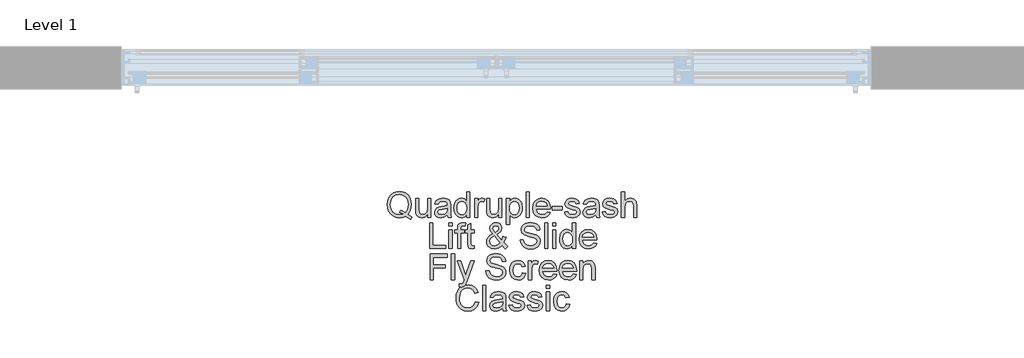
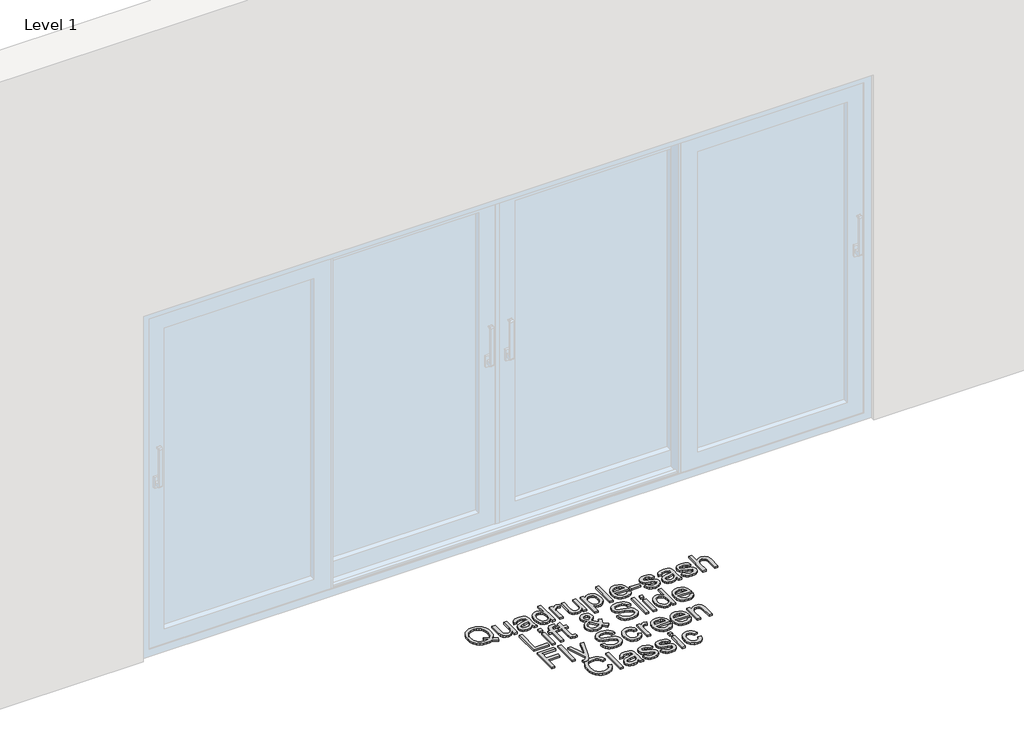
# One storey, part 10 of 13: 1 proxy.
"""IFC4 building model written with IfcOpenShell, lengths in millimetres."""

from ifc_helpers import new_model, si_unit, origin, origin_with_axes, place, context, project, spatial, polyline, outline, extrude, element, save

model = new_model("IFC4")

# Units and contexts
model_context = context("Model", 3, world=origin())
ifc_project = project(units=[si_unit("LENGTHUNIT", "METRE", prefix="MILLI")], contexts=[model_context])

# Site, building, storey
site = spatial("IfcSite", under=ifc_project)
building = spatial("IfcBuilding", under=site)
storey = spatial("IfcBuildingStorey", under=building, Name="Level 1", Elevation=0.0)

# Proxy
placement = place(None, origin())
element("IfcBuildingElementProxy", 1, Name="150mm Arial", ObjectType="150mm Arial", at=placement, inside=storey, context=model_context, shape_type="SweptSolid", body=[
    extrude(outline(polyline([(20411.3889075, -5879.5997474), (20434.7494142, -5895.3083086), (20429.6726427, -5909.1038834), (20398.6601905, -5891.4823358), (20381.2317809, -5897.8834825), (20362.0559319, -5900.0171981), (20342.7881124, -5897.5569873), (20325.378097, -5890.1763547), (20310.7961744, -5878.3397515), (20300.0126335, -5862.5116287), (20293.3493708, -5843.5611074), (20291.1282833, -5822.3573089), (20293.3447723, -5801.1351163), (20299.9942394, -5781.9086836), (20310.7363936, -5765.855233), (20325.2309442, -5754.151987), (20342.5765803, -5747.0058793), (20361.8719909, -5744.6238433), (20381.3191529, -5747.0610616), (20398.752161, -5754.3727162), (20413.2237189, -5766.0713637), (20423.7865307, -5781.6695603), (20430.2428597, -5800.3395715), (20432.3949694, -5821.2536629), (20427.1710451, -5854.1791015), (20420.6135485, -5867.8367206), (20411.3889075, -5879.5997474)]), holes=[polyline([(20367.2430681, -5854.5469835), (20383.080388, -5860.534263), (20395.8642873, -5868.8575931), (20409.1356303, -5849.4334238), (20413.5594113, -5822.2101561), (20411.9959128, -5805.6324737), (20407.3054173, -5791.2896744), (20399.6028881, -5779.5450417), (20389.0032881, -5770.7618591), (20376.2239873, -5765.2850159), (20361.9823555, -5763.4594015), (20341.4545402, -5767.152017), (20324.7526976, -5778.2298636), (20313.6610555, -5796.6377589), (20309.9638414, -5822.3205207), (20313.6196688, -5847.4514595), (20324.5871507, -5865.9697195), (20341.2384095, -5877.3786598), (20361.9455673, -5881.18164), (20382.2158653, -5877.318879), (20362.3870257, -5868.9679577), (20367.2430681, -5854.5469835)])]), origin_with_axes(), (0.0, 0.0, 1.0), 10.0),
    extrude(outline(polyline([(20528.927205, -5897.6627533), (20528.927205, -5878.6432542), (20514.1751369, -5894.6737121), (20494.9349086, -5900.0171981), (20477.2213905, -5896.2648018), (20465.0077083, -5886.8470227), (20459.3975079, -5872.9778715), (20458.2938619, -5855.4666885), (20458.2938619, -5787.0038492), (20477.12942, -5787.0038492), (20477.12942, -5846.6007324), (20478.2698542, -5865.8041726), (20485.7194646, -5877.0797557), (20499.7541627, -5881.18164), (20515.481118, -5876.9877852), (20525.8737844, -5865.5650493), (20528.927205, -5844.5773814), (20528.927205, -5787.0038492), (20547.7627631, -5787.0038492), (20547.7627631, -5897.6627533), (20528.927205, -5897.6627533)])), origin_with_axes(), (0.0, 0.0, 1.0), 10.0),
    extrude(outline(polyline([(20644.2949986, -5883.5360847), (20626.0296576, -5896.30159), (20605.8513301, -5900.0171981), (20590.1105793, -5897.782315), (20578.4993038, -5891.0776656), (20571.3394005, -5880.8965314), (20568.952766, -5868.2321937), (20572.5580096, -5853.3329729), (20582.030971, -5842.5172423), (20595.2195405, -5836.3368247), (20611.5167129, -5833.5041334), (20644.184634, -5827.0294103), (20644.2949986, -5822.8355555), (20642.9982146, -5814.4294519), (20639.1078625, -5808.9296161), (20630.4074533, -5804.846126), (20618.2857416, -5803.4849626), (20599.2294542, -5807.1086002), (20590.142769, -5819.966076), (20571.3072108, -5817.6116312), (20579.455797, -5799.2175314), (20595.863334, -5788.438589), (20620.7137628, -5784.6494044), (20643.5408406, -5787.9971306), (20656.4351045, -5796.4032342), (20662.2108518, -5809.1871335), (20663.1305568, -5825.6682469), (20663.1305568, -5849.10233), (20664.08705, -5881.8254334), (20667.8394463, -5897.6627533), (20649.0038882, -5897.6627533), (20644.2949986, -5883.5360847)]), holes=[polyline([(20644.2949986, -5845.8649684), (20613.9079458, -5851.6407157), (20597.702744, -5854.6941363), (20590.3634981, -5859.6605432), (20587.7883242, -5866.9078185), (20593.3985246, -5877.0981498), (20609.8612439, -5881.18164), (20628.9175312, -5876.6750855), (20641.2047899, -5865.7673844), (20644.184634, -5851.1992574), (20644.2949986, -5845.8649684)])]), origin_with_axes(), (0.0, 0.0, 1.0), 10.0),
    extrude(outline(polyline([(20757.3083476, -5897.6627533), (20757.3083476, -5879.894053), (20744.846345, -5894.9864118), (20727.6202705, -5900.0171981), (20715.4433765, -5898.1961822), (20704.2965521, -5892.7331346), (20694.8603789, -5884.0097328), (20687.8154387, -5872.4076544), (20683.4284459, -5858.3959489), (20681.9661149, -5842.4436659), (20687.3555862, -5812.4612833), (20694.0878267, -5800.5694978), (20703.5056058, -5791.8231033), (20714.896152, -5786.4428292), (20727.5466941, -5784.6494044), (20744.9107243, -5789.7813583), (20757.3083476, -5803.1170806), (20757.3083476, -5746.9782881), (20776.1439057, -5746.9782881), (20776.1439057, -5897.6627533), (20757.3083476, -5897.6627533)]), holes=[polyline([(20700.8016731, -5842.3700895), (20702.9261916, -5859.4076244), (20709.2997472, -5871.5247376), (20718.5611764, -5878.7674144), (20729.3493159, -5881.18164), (20740.1328569, -5878.877779), (20749.1597614, -5871.966196), (20755.271201, -5860.3181323), (20757.3083476, -5843.8048292), (20755.2344128, -5825.7510203), (20749.0126086, -5813.2338354), (20739.7557779, -5805.9221808), (20728.5767637, -5803.4849626), (20717.6782596, -5805.8256118), (20708.7479242, -5812.8475594), (20702.7882359, -5824.9094903), (20700.8016731, -5842.3700895)])]), origin_with_axes(), (0.0, 0.0, 1.0), 10.0),
    extrude(outline(polyline([(20804.3972429, -5897.6627533), (20804.3972429, -5787.0038492), (20820.8783563, -5787.0038492), (20820.8783563, -5803.374598), (20832.5770038, -5788.2914362), (20844.3492276, -5784.6494044), (20863.2583622, -5790.4619399), (20856.9675801, -5807.3477235), (20843.7238282, -5803.4849626), (20833.0736445, -5807.2005707), (20826.2862217, -5817.5012666), (20823.2328011, -5839.5006099), (20823.2328011, -5897.6627533), (20804.3972429, -5897.6627533)])), origin_with_axes(), (0.0, 0.0, 1.0), 10.0),
    extrude(outline(polyline([(20945.6639291, -5897.6627533), (20945.6639291, -5878.6432542), (20930.9118611, -5894.6737121), (20911.6716327, -5900.0171981), (20893.9581147, -5896.2648018), (20881.7444324, -5886.8470227), (20876.134232, -5872.9778715), (20875.030586, -5855.4666885), (20875.030586, -5787.0038492), (20893.8661442, -5787.0038492), (20893.8661442, -5846.6007324), (20895.0065784, -5865.8041726), (20902.4561888, -5877.0797557), (20916.4908869, -5881.18164), (20932.2178422, -5876.9877852), (20942.6105085, -5865.5650493), (20945.6639291, -5844.5773814), (20945.6639291, -5787.0038492), (20964.4994872, -5787.0038492), (20964.4994872, -5897.6627533), (20945.6639291, -5897.6627533)])), origin_with_axes(), (0.0, 0.0, 1.0), 10.0),
    extrude(outline(polyline([(20990.3983797, -5940.0427592), (20990.3983797, -5787.0038492), (21009.2339379, -5787.0038492), (21009.2339379, -5805.4715254), (21022.2569605, -5789.8549347), (21039.8417199, -5784.6494044), (21052.5796339, -5786.4704203), (21063.7172613, -5791.9334679), (21072.7855525, -5800.7074535), (21079.3154579, -5812.4612833), (21084.5761705, -5841.4871727), (21083.0908469, -5857.5958055), (21078.6348762, -5872.0029842), (21071.3508127, -5883.9775431), (21061.3812107, -5892.7883169), (21049.7699352, -5898.2099778), (21037.5608515, -5900.0171981), (21021.1717086, -5895.1795499), (21009.2339379, -5882.9474735), (21009.2339379, -5940.0427592), (20990.3983797, -5940.0427592)]), holes=[polyline([(21009.2339379, -5843.2162181), (21011.2710844, -5860.1020016), (21017.382524, -5871.9110137), (21026.4002315, -5878.8639834), (21037.1561813, -5881.18164), (21048.0868751, -5878.7812099), (21057.3345087, -5871.5799199), (21063.6390864, -5859.3386465), (21065.7406123, -5841.8182665), (21063.6896702, -5825.0244534), (21057.5368438, -5813.0498945), (21048.532932, -5805.8761955), (21037.9287335, -5803.4849626), (21027.2831482, -5806.0279469), (21017.934347, -5813.6568997), (21011.4090402, -5826.1326979), (21009.2339379, -5843.2162181)])]), origin_with_axes(), (0.0, 0.0, 1.0), 10.0),
    extrude(outline(polyline([(21105.7661734, -5897.6627533), (21105.7661734, -5746.9782881), (21124.6017315, -5746.9782881), (21124.6017315, -5897.6627533), (21105.7661734, -5897.6627533)])), origin_with_axes(), (0.0, 0.0, 1.0), 10.0),
    extrude(outline(polyline([(21230.331017, -5864.7005266), (21248.7986931, -5867.0549713), (21242.1446275, -5880.9701078), (21231.5266334, -5891.3719712), (21217.1838342, -5897.8558914), (21199.355353, -5900.0171981), (21177.2548421, -5896.2877944), (21160.2494969, -5885.0995832), (21149.4061751, -5867.1791315), (21145.7917345, -5843.2530063), (21149.4429633, -5818.5221391), (21160.3966497, -5800.0268718), (21177.1720687, -5788.4937713), (21198.2884952, -5784.6494044), (21218.7473326, -5788.4845742), (21235.0950888, -5799.9900836), (21245.8142504, -5818.4485627), (21249.3873043, -5843.1426417), (21249.2769397, -5848.2194132), (21164.6272926, -5848.2194132), (21167.8876468, -5862.3184907), (21175.4614174, -5872.6835659), (21186.3921112, -5879.0571214), (21199.723235, -5881.18164), (21218.1909111, -5877.2453026), (21230.331017, -5864.7005266)]), holes=[polyline([(21164.6272926, -5829.383855), (21230.5517462, -5829.383855), (21228.0041633, -5819.4326471), (21223.0101653, -5812.3141305), (21212.0288877, -5805.6922545), (21198.2149188, -5803.4849626), (21185.5183914, -5805.2461976), (21175.019959, -5810.5299028), (21167.7220999, -5818.765861), (21164.6272926, -5829.383855)])]), origin_with_axes(), (0.0, 0.0, 1.0), 10.0),
    extrude(outline(polyline([(21258.8050834, -5852.9283027), (21258.8050834, -5834.0927446), (21317.6662026, -5834.0927446), (21317.6662026, -5852.9283027), (21258.8050834, -5852.9283027)])), origin_with_axes(), (0.0, 0.0, 1.0), 10.0),
    extrude(outline(polyline([(21331.7928712, -5864.7005266), (21350.6284294, -5862.3460818), (21353.5990765, -5870.4026975), (21359.3472327, -5876.3255976), (21379.323225, -5881.18164), (21398.5266652, -5876.7302678), (21404.7806591, -5866.2824192), (21403.2079635, -5861.4815591), (21398.489877, -5857.8211333), (21379.1024958, -5852.4500561), (21350.738794, -5843.2346122), (21338.3595648, -5832.4740638), (21334.147316, -5817.2805374), (21337.5318304, -5803.2458393), (21346.7656684, -5792.5220791), (21358.7402274, -5786.9486669), (21374.9454293, -5784.6494044), (21397.8644776, -5788.3466185), (21412.4326046, -5798.3530087), (21418.9073277, -5815.2571864), (21400.0717695, -5817.6116312), (21392.9900411, -5807.2189648), (21376.4169572, -5803.4849626), (21358.3907395, -5807.0534179), (21352.9828741, -5815.367551), (21355.2269543, -5820.8489927), (21362.2535004, -5825.0060593), (21378.4770964, -5829.015973), (21406.1234284, -5837.8819291), (21418.96251, -5847.9251076), (21423.6162172, -5864.2958564), (21418.1531696, -5882.3220741), (21402.3894261, -5895.4002791), (21379.0657076, -5900.0171981), (21360.0737996, -5897.791512), (21346.2138454, -5891.1144538), (21336.9616133, -5880.0595999), (21331.7928712, -5864.7005266)])), origin_with_axes(), (0.0, 0.0, 1.0), 10.0),
    extrude(outline(polyline([(21515.4395632, -5883.5360847), (21497.1742222, -5896.30159), (21476.9958947, -5900.0171981), (21461.2551439, -5897.782315), (21449.6438684, -5891.0776656), (21442.4839651, -5880.8965314), (21440.0973306, -5868.2321937), (21443.7025742, -5853.3329729), (21453.1755355, -5842.5172423), (21466.3641051, -5836.3368247), (21482.6612774, -5833.5041334), (21515.3291986, -5827.0294103), (21515.4395632, -5822.8355555), (21514.1427792, -5814.4294519), (21510.2524271, -5808.9296161), (21501.5520179, -5804.846126), (21489.4303062, -5803.4849626), (21470.3740188, -5807.1086002), (21461.2873335, -5819.966076), (21442.4517754, -5817.6116312), (21450.6003616, -5799.2175314), (21467.0078986, -5788.438589), (21491.8583273, -5784.6494044), (21514.6854051, -5787.9971306), (21527.5796691, -5796.4032342), (21533.3554164, -5809.1871335), (21534.2751214, -5825.6682469), (21534.2751214, -5849.10233), (21535.2316146, -5881.8254334), (21538.9840109, -5897.6627533), (21520.1484528, -5897.6627533), (21515.4395632, -5883.5360847)]), holes=[polyline([(21515.4395632, -5845.8649684), (21485.0525104, -5851.6407157), (21468.8473085, -5854.6941363), (21461.5080627, -5859.6605432), (21458.9328888, -5866.9078185), (21464.5430892, -5877.0981498), (21481.0058085, -5881.18164), (21500.0620958, -5876.6750855), (21512.3493545, -5865.7673844), (21515.3291986, -5851.1992574), (21515.4395632, -5845.8649684)])]), origin_with_axes(), (0.0, 0.0, 1.0), 10.0),
    extrude(outline(polyline([(21553.1106795, -5864.7005266), (21571.9462377, -5862.3460818), (21574.9168848, -5870.4026975), (21580.665041, -5876.3255976), (21600.6410333, -5881.18164), (21619.8444735, -5876.7302678), (21626.0984674, -5866.2824192), (21624.5257718, -5861.4815591), (21619.8076853, -5857.8211333), (21600.4203041, -5852.4500561), (21572.0566023, -5843.2346122), (21559.6773731, -5832.4740638), (21555.4651243, -5817.2805374), (21558.8496387, -5803.2458393), (21568.0834767, -5792.5220791), (21580.0580357, -5786.9486669), (21596.2632376, -5784.6494044), (21619.1822859, -5788.3466185), (21633.7504129, -5798.3530087), (21640.225136, -5815.2571864), (21621.3895778, -5817.6116312), (21614.3078494, -5807.2189648), (21597.7347655, -5803.4849626), (21579.7085478, -5807.0534179), (21574.3006824, -5815.367551), (21576.5447626, -5820.8489927), (21583.5713087, -5825.0060593), (21599.7949047, -5829.015973), (21627.4412367, -5837.8819291), (21640.2803183, -5847.9251076), (21644.9340255, -5864.2958564), (21639.4709779, -5882.3220741), (21623.7072344, -5895.4002791), (21600.3835159, -5900.0171981), (21581.3916079, -5897.791512), (21567.5316537, -5891.1144538), (21558.2794216, -5880.0595999), (21553.1106795, -5864.7005266)])), origin_with_axes(), (0.0, 0.0, 1.0), 10.0),
    extrude(outline(polyline([(21666.1240284, -5897.6627533), (21666.1240284, -5746.9782881), (21684.9595866, -5746.9782881), (21684.9595866, -5802.3813166), (21699.6472753, -5789.0823825), (21717.7378724, -5784.6494044), (21738.8910871, -5789.4870527), (21751.7301687, -5802.8595632), (21755.5929297, -5827.6180215), (21755.5929297, -5897.6627533), (21736.7573715, -5897.6627533), (21736.7573715, -5829.567796), (21735.2582524, -5817.7771781), (21730.760895, -5809.7021683), (21723.5136197, -5805.039264), (21713.7647468, -5803.4849626), (21698.3320971, -5807.6788173), (21688.0314013, -5819.046371), (21684.9595866, -5838.8752105), (21684.9595866, -5897.6627533), (21666.1240284, -5897.6627533)])), origin_with_axes(), (0.0, 0.0, 1.0), 10.0),
    extrude(outline(polyline([(20539.5222064, -6080.6249801), (20539.5222064, -5929.9405149), (20558.3577646, -5929.9405149), (20558.3577646, -6061.789422), (20633.6999972, -6061.789422), (20633.6999972, -6080.6249801), (20539.5222064, -6080.6249801)])), origin_with_axes(), (0.0, 0.0, 1.0), 10.0),
    extrude(outline(polyline([(20652.5355553, -5948.776073), (20652.5355553, -5929.9405149), (20671.3711135, -5929.9405149), (20671.3711135, -5948.776073), (20652.5355553, -5948.776073)])), origin_with_axes(), (0.0, 0.0, 1.0), 10.0),
    extrude(outline(polyline([(20652.5355553, -6080.6249801), (20652.5355553, -5969.966076), (20671.3711135, -5969.966076), (20671.3711135, -6080.6249801), (20652.5355553, -6080.6249801)])), origin_with_axes(), (0.0, 0.0, 1.0), 10.0),
    extrude(outline(polyline([(20800.8655758, -6064.9164189), (20803.2200206, -6081.1768031), (20789.1301401, -6082.9794249), (20773.3480025, -6079.8524279), (20765.4753279, -6071.6486594), (20763.1944595, -6050.2747155), (20763.1944595, -5988.8016341), (20749.0677909, -5988.8016341), (20749.0677909, -5969.966076), (20763.1944595, -5969.966076), (20763.1944595, -5943.0739021), (20782.0300176, -5932.0006541), (20782.0300176, -5969.966076), (20800.8655758, -5969.966076), (20800.8655758, -5988.8016341), (20782.0300176, -5988.8016341), (20782.0300176, -6049.7228925), (20783.023299, -6059.4349772), (20786.2422665, -6062.8746738), (20792.6618073, -6064.1438667), (20800.8655758, -6064.9164189)])), origin_with_axes(), (0.0, 0.0, 1.0), 10.0),
    extrude(outline(polyline([(20704.3333403, -6080.6249801), (20704.3333403, -5988.8016341), (20687.8522269, -5988.8016341), (20687.8522269, -5969.966076), (20704.3333403, -5969.966076), (20704.3333403, -5958.8192515), (20706.319903, -5943.1106903), (20715.9584113, -5931.8902895), (20734.9411223, -5927.5860701), (20752.1212114, -5929.6462093), (20749.3620965, -5947.3045451), (20738.5095776, -5946.4216283), (20726.6453833, -5949.5486252), (20723.1688984, -5961.2104845), (20723.1688984, -5969.966076), (20744.3589013, -5969.966076), (20744.3589013, -5988.8016341), (20723.1688984, -5988.8016341), (20723.1688984, -6080.6249801), (20704.3333403, -6080.6249801)])), origin_with_axes(), (0.0, 0.0, 1.0), 10.0),
    extrude(outline(polyline([(20964.9777338, -6062.0101512), (20945.0017415, -6077.7371064), (20921.6412348, -6082.9794249), (20900.8559021, -6079.0982698), (20884.8530353, -6067.4548047), (20876.6032815, -6054.054703), (20873.8533636, -6039.1646793), (20876.0652541, -6025.9669127), (20882.7009256, -6014.1119154), (20893.7327869, -6003.6088844), (20909.133247, -5994.4670168), (20895.9814656, -5975.4107295), (20892.6889218, -5961.2840609), (20895.2824899, -5948.5645409), (20903.063194, -5937.6292486), (20914.7710385, -5930.0968647), (20929.1460275, -5927.5860701), (20942.8220407, -5929.9865001), (20953.757333, -5937.1877902), (20960.9310319, -5947.7552005), (20963.3222649, -5960.2539913), (20961.5518328, -5970.7478252), (20956.2405365, -5980.4507128), (20934.9953512, -5997.4836492), (20962.2554071, -6031.4391574), (20970.3855992, -6010.5802482), (20989.2211573, -6014.6637384), (20975.9038291, -6045.6761906), (20998.6389364, -6068.4848743), (20984.5122678, -6082.9794249), (20964.9777338, -6062.0101512)]), holes=[polyline([(20925.4672076, -5985.6010608), (20940.9550396, -5973.9208074), (20944.4867067, -5962.8291653), (20939.8329995, -5951.0017591), (20928.1895343, -5946.4216283), (20916.2885518, -5950.9649709), (20911.5244799, -5962.0566131), (20913.1431607, -5968.9544005), (20918.0359913, -5976.6247401), (20925.4672076, -5985.6010608)]), polyline([(20952.3593814, -6048.4353055), (20918.734967, -6006.4599699), (20898.0416048, -6022.2421075), (20892.6889218, -6036.6630817), (20894.5191347, -6045.5474319), (20900.0097735, -6054.7628758), (20908.8573355, -6061.798619), (20920.758318, -6064.1438667), (20938.0671659, -6059.766071), (20952.3593814, -6048.4353055)])]), origin_with_axes(), (0.0, 0.0, 1.0), 10.0),
    extrude(outline(polyline([(21071.6267242, -6028.8271952), (21090.4622824, -6028.8271952), (21096.5323353, -6047.6811474), (21111.3579797, -6059.6005241), (21133.9459342, -6064.1438667), (21153.627621, -6060.7041701), (21166.3379439, -6051.2496028), (21170.5134045, -6038.6128563), (21167.3864076, -6026.8590265), (21154.5841142, -6018.3057701), (21127.1585114, -6011.1136771), (21097.6359813, -6001.8246567), (21081.6147204, -5987.8083527), (21076.3356138, -5969.0831592), (21077.9680901, -5958.0512978), (21082.8655192, -5947.7643976), (21090.8991423, -5939.0455943), (21101.9402006, -5932.7180239), (21129.8624441, -5927.5860701), (21159.6608857, -5932.9571472), (21171.0836216, -5939.5882202), (21179.5265134, -5948.7392848), (21184.8699994, -5959.840124), (21186.9945179, -5972.3205207), (21168.1589598, -5972.3205207), (21164.700869, -5961.0817258), (21157.4903819, -5952.9699278), (21146.2239958, -5948.0587031), (21130.5982081, -5946.4216283), (21114.6045383, -5948.040309), (21103.6324578, -5952.8963514), (21097.2864934, -5960.0424591), (21095.1711719, -5968.5313362), (21096.6702911, -5975.7694144), (21101.1676485, -5981.591147), (21131.9225832, -5992.1125721), (21165.252692, -6001.5671393), (21175.9902477, -6008.4005474), (21183.4812449, -6016.8342421), (21187.8820332, -6026.7762531), (21189.3489627, -6038.1346097), (21187.661304, -6049.7458851), (21182.5983281, -6060.6673819), (21174.3669684, -6070.0667668), (21163.1741587, -6077.1117071), (21149.7142762, -6081.5124954), (21134.6816982, -6082.9794249), (21116.2278176, -6081.3975323), (21101.0388898, -6076.6518546), (21088.9401706, -6068.7239976), (21079.7569163, -6057.5955672), (21073.8616074, -6044.0391157), (21071.6267242, -6028.8271952)])), origin_with_axes(), (0.0, 0.0, 1.0), 10.0),
    extrude(outline(polyline([(21215.2478552, -6080.6249801), (21215.2478552, -5929.9405149), (21234.0834133, -5929.9405149), (21234.0834133, -6080.6249801), (21215.2478552, -6080.6249801)])), origin_with_axes(), (0.0, 0.0, 1.0), 10.0),
    extrude(outline(polyline([(21262.3367505, -5948.776073), (21262.3367505, -5929.9405149), (21281.1723087, -5929.9405149), (21281.1723087, -5948.776073), (21262.3367505, -5948.776073)])), origin_with_axes(), (0.0, 0.0, 1.0), 10.0),
    extrude(outline(polyline([(21262.3367505, -6080.6249801), (21262.3367505, -5969.966076), (21281.1723087, -5969.966076), (21281.1723087, -6080.6249801), (21262.3367505, -6080.6249801)])), origin_with_axes(), (0.0, 0.0, 1.0), 10.0),
    extrude(outline(polyline([(21377.7045442, -6080.6249801), (21377.7045442, -6062.8562797), (21365.2425416, -6077.9486386), (21348.0164672, -6082.9794249), (21335.8395732, -6081.158409), (21324.6927487, -6075.6953614), (21315.2565755, -6066.9719596), (21308.2116353, -6055.3698811), (21303.8246425, -6041.3581756), (21302.3623116, -6025.4058926), (21307.7517828, -5995.42351), (21314.4840234, -5983.5317245), (21323.9018024, -5974.7853301), (21335.2923487, -5969.4050559), (21347.9428908, -5967.6116312), (21365.306921, -5972.743585), (21377.7045442, -5986.0793073), (21377.7045442, -5929.9405149), (21396.5401024, -5929.9405149), (21396.5401024, -6080.6249801), (21377.7045442, -6080.6249801)]), holes=[polyline([(21321.1978698, -6025.3323162), (21323.3223883, -6042.3698511), (21329.6959439, -6054.4869644), (21338.9573731, -6061.7296411), (21349.7455126, -6064.1438667), (21360.5290536, -6061.8400057), (21369.555958, -6054.9284227), (21375.6673977, -6043.2803591), (21377.7045442, -6026.767056), (21375.6306095, -6008.7132471), (21369.4088052, -5996.1960622), (21360.1519745, -5988.8844076), (21348.9729604, -5986.4471893), (21338.0744563, -5988.7878385), (21329.1441209, -5995.8097861), (21323.1844325, -6007.871717), (21321.1978698, -6025.3323162)])]), origin_with_axes(), (0.0, 0.0, 1.0), 10.0),
    extrude(outline(polyline([(21502.2693878, -6047.6627533), (21520.737064, -6050.0171981), (21514.0829984, -6063.9323346), (21503.4650043, -6074.334198), (21489.122205, -6080.8181182), (21471.2937238, -6082.9794249), (21449.1932129, -6079.2500212), (21432.1878677, -6068.06181), (21421.3445459, -6050.1413583), (21417.7301053, -6026.215233), (21421.3813341, -6001.4843659), (21432.3350205, -5982.9890986), (21449.1104395, -5971.455998), (21470.226866, -5967.6116312), (21490.6857035, -5971.446801), (21507.0334596, -5982.9523104), (21517.7526213, -6001.4107895), (21521.3256751, -6026.1048684), (21521.2153105, -6031.18164), (21436.5656635, -6031.18164), (21439.8260176, -6045.2807174), (21447.3997882, -6055.6457926), (21458.330482, -6062.0193482), (21471.6616058, -6064.1438667), (21490.129282, -6060.2075294), (21502.2693878, -6047.6627533)]), holes=[polyline([(21436.5656635, -6012.3460818), (21502.490117, -6012.3460818), (21499.9425342, -6002.3948738), (21494.9485361, -5995.2763572), (21483.9672585, -5988.6544813), (21470.1532896, -5986.4471893), (21457.4567623, -5988.2084244), (21446.9583298, -5993.4921296), (21439.6604707, -6001.7280877), (21436.5656635, -6012.3460818)])]), origin_with_axes(), (0.0, 0.0, 1.0), 10.0),
    extrude(outline(polyline([(20543.0538736, -6263.5872069), (20543.0538736, -6112.9027417), (20644.2949986, -6112.9027417), (20644.2949986, -6131.7382998), (20561.8894317, -6131.7382998), (20561.8894317, -6176.4727504), (20632.5227748, -6176.4727504), (20632.5227748, -6195.3083086), (20561.8894317, -6195.3083086), (20561.8894317, -6263.5872069), (20543.0538736, -6263.5872069)])), origin_with_axes(), (0.0, 0.0, 1.0), 10.0),
    extrude(outline(polyline([(20667.8394463, -6263.5872069), (20667.8394463, -6112.9027417), (20686.6750045, -6112.9027417), (20686.6750045, -6263.5872069), (20667.8394463, -6263.5872069)])), origin_with_axes(), (0.0, 0.0, 1.0), 10.0),
    extrude(outline(polyline([(20714.9283417, -6305.9672127), (20712.5738969, -6287.8306304), (20722.1388288, -6289.4860993), (20731.0783613, -6287.4075661), (20736.559803, -6281.6134246), (20741.710151, -6267.7442734), (20743.1816789, -6263.1825367), (20703.1561179, -6152.9283027), (20723.0217456, -6152.9283027), (20744.2485367, -6214.3645959), (20751.6429648, -6238.9391132), (20759.0373929, -6217.2340755), (20780.8527953, -6152.9283027), (20800.5712702, -6152.9283027), (20762.0540253, -6266.2359572), (20752.047635, -6290.8104745), (20741.1215398, -6304.0910145), (20726.4430482, -6308.3216575), (20714.9283417, -6305.9672127)])), origin_with_axes(), (0.0, 0.0, 1.0), 10.0),
    extrude(outline(polyline([(20870.3216965, -6211.789422), (20889.1572546, -6211.789422), (20895.2273076, -6230.6433742), (20910.052952, -6242.5627509), (20932.6409065, -6247.1060935), (20952.3225932, -6243.6663968), (20965.0329161, -6234.2118296), (20969.2083768, -6221.575083), (20966.0813798, -6209.8212533), (20953.2790864, -6201.2679969), (20925.8534836, -6194.0759039), (20896.3309535, -6184.7868835), (20880.3096926, -6170.7705795), (20875.030586, -6152.0453859), (20876.6630624, -6141.0135246), (20881.5604914, -6130.7266243), (20889.5941145, -6122.007821), (20900.6351729, -6115.6802507), (20928.5574163, -6110.5482969), (20958.3558579, -6115.919374), (20969.7785939, -6122.550447), (20978.2214857, -6131.7015116), (20983.5649716, -6142.8023508), (20985.6894902, -6155.2827475), (20966.853932, -6155.2827475), (20963.3958413, -6144.0439525), (20956.1853542, -6135.9321546), (20944.918968, -6131.0209299), (20929.2931803, -6129.383855), (20913.2995106, -6131.0025358), (20902.3274301, -6135.8585782), (20895.9814656, -6143.0046859), (20893.8661442, -6151.4935629), (20895.3652633, -6158.7316412), (20899.8626207, -6164.5533738), (20930.6175555, -6175.0747988), (20963.9476643, -6184.5293661), (20974.68522, -6191.3627742), (20982.1762171, -6199.7964689), (20986.5770055, -6209.7384798), (20988.0439349, -6221.0968364), (20986.3562763, -6232.7081119), (20981.2933003, -6243.6296086), (20973.0619407, -6253.0289936), (20961.869131, -6260.0739338), (20948.4092485, -6264.4747222), (20933.3766705, -6265.9416516), (20914.9227899, -6264.3597591), (20899.733862, -6259.6140813), (20887.6351429, -6251.6862243), (20878.4518886, -6240.557794), (20872.5565796, -6227.0013425), (20870.3216965, -6211.789422)])), origin_with_axes(), (0.0, 0.0, 1.0), 10.0),
    extrude(outline(polyline([(21084.5761705, -6223.5616458), (21103.4117286, -6225.9160906), (21098.1602131, -6242.6685169), (21088.2917786, -6255.3282561), (21074.7353271, -6263.2883028), (21058.4197606, -6265.9416516), (21038.3839874, -6262.2398391), (21022.716813, -6251.1344013), (21012.6046566, -6233.1127821), (21009.2339379, -6208.662425), (21010.6732762, -6191.9008016), (21014.9912911, -6177.3740613), (21022.2569605, -6165.6432242), (21032.5392623, -6157.2693103), (21044.8403165, -6152.247721), (21058.1622432, -6150.573858), (21074.077738, -6152.8731204), (21086.8018565, -6159.7709078), (21095.9299285, -6170.8993382), (21101.0572839, -6185.8905295), (21082.2217257, -6188.2449743), (21073.4845283, -6174.1366998), (21058.309396, -6169.4094161), (21046.1371005, -6171.7362697), (21036.4755996, -6178.7168306), (21030.1710219, -6190.7281777), (21028.069496, -6208.1473902), (21030.1250367, -6225.8011274), (21036.2916586, -6237.8538613), (21045.7784156, -6244.7930354), (21057.7943612, -6247.1060935), (21067.5478326, -6245.6621567), (21075.5446675, -6241.3303462), (21081.3618015, -6234.0002974), (21084.5761705, -6223.5616458)])), origin_with_axes(), (0.0, 0.0, 1.0), 10.0),
    extrude(outline(polyline([(21119.892842, -6263.5872069), (21119.892842, -6152.9283027), (21136.3739554, -6152.9283027), (21136.3739554, -6169.2990515), (21148.0726028, -6154.2158897), (21159.8448267, -6150.573858), (21178.7539612, -6156.3863935), (21172.4631791, -6173.2721771), (21159.2194273, -6169.4094161), (21148.5692435, -6173.1250243), (21141.7818207, -6183.4257201), (21138.7284002, -6205.4250634), (21138.7284002, -6263.5872069), (21119.892842, -6263.5872069)])), origin_with_axes(), (0.0, 0.0, 1.0), 10.0),
    extrude(outline(polyline([(21268.0021333, -6230.6249801), (21286.4698094, -6232.9794249), (21279.8157438, -6246.8945613), (21269.1977497, -6257.2964248), (21254.8549505, -6263.7803449), (21237.0264693, -6265.9416516), (21214.9259584, -6262.2122479), (21197.9206132, -6251.0240367), (21187.0772914, -6233.1035851), (21183.4628508, -6209.1774598), (21187.1140796, -6184.4465927), (21198.067766, -6165.9513254), (21214.843185, -6154.4182248), (21235.9596115, -6150.573858), (21256.4184489, -6154.4090278), (21272.7662051, -6165.9145372), (21283.4853667, -6184.3730163), (21287.0584206, -6209.0670952), (21286.948056, -6214.1438667), (21202.2984089, -6214.1438667), (21205.5587631, -6228.2429442), (21213.1325337, -6238.6080194), (21224.0632275, -6244.981575), (21237.3943513, -6247.1060935), (21255.8620274, -6243.1697561), (21268.0021333, -6230.6249801)]), holes=[polyline([(21202.2984089, -6195.3083086), (21268.2228625, -6195.3083086), (21265.6752796, -6185.3571006), (21260.6812816, -6178.238584), (21249.700004, -6171.6167081), (21235.8860351, -6169.4094161), (21223.1895077, -6171.1706512), (21212.6910753, -6176.4543563), (21205.3932162, -6184.6903145), (21202.2984089, -6195.3083086)])]), origin_with_axes(), (0.0, 0.0, 1.0), 10.0),
    extrude(outline(polyline([(21383.369927, -6230.6249801), (21401.8376031, -6232.9794249), (21395.1835375, -6246.8945613), (21384.5655434, -6257.2964248), (21370.2227441, -6263.7803449), (21352.394263, -6265.9416516), (21330.2937521, -6262.2122479), (21313.2884069, -6251.0240367), (21302.4450851, -6233.1035851), (21298.8306445, -6209.1774598), (21302.4818733, -6184.4465927), (21313.4355597, -6165.9513254), (21330.2109786, -6154.4182248), (21351.3274052, -6150.573858), (21371.7862426, -6154.4090278), (21388.1339988, -6165.9145372), (21398.8531604, -6184.3730163), (21402.4262143, -6209.0670952), (21402.3158497, -6214.1438667), (21317.6662026, -6214.1438667), (21320.9265568, -6228.2429442), (21328.5003274, -6238.6080194), (21339.4310212, -6244.981575), (21352.762145, -6247.1060935), (21371.2298211, -6243.1697561), (21383.369927, -6230.6249801)]), holes=[polyline([(21317.6662026, -6195.3083086), (21383.5906561, -6195.3083086), (21381.0430733, -6185.3571006), (21376.0490752, -6178.238584), (21365.0677977, -6171.6167081), (21351.2538288, -6169.4094161), (21338.5573014, -6171.1706512), (21328.058869, -6176.4543563), (21320.7610099, -6184.6903145), (21317.6662026, -6195.3083086)])]), origin_with_axes(), (0.0, 0.0, 1.0), 10.0),
    extrude(outline(polyline([(21421.2617725, -6263.5872069), (21421.2617725, -6152.9283027), (21440.0973306, -6152.9283027), (21440.0973306, -6168.3793465), (21454.4999107, -6155.0252301), (21474.1632034, -6150.573858), (21491.9502978, -6154.1607074), (21504.0904037, -6163.5784865), (21509.7373923, -6177.4292436), (21510.7306737, -6195.6394024), (21510.7306737, -6263.5872069), (21491.8951155, -6263.5872069), (21491.8951155, -6198.1777881), (21489.7246118, -6181.5127338), (21482.0542722, -6172.70196), (21469.12322, -6169.4094161), (21458.0913587, -6171.2580231), (21448.6873752, -6176.8038442), (21442.2448418, -6187.5184073), (21440.0973306, -6204.8732404), (21440.0973306, -6263.5872069), (21421.2617725, -6263.5872069)])), origin_with_axes(), (0.0, 0.0, 1.0), 10.0),
    extrude(outline(polyline([(20807.9289101, -6392.9858151), (20826.7644682, -6397.8418575), (20818.0732561, -6419.790617), (20804.4340311, -6435.8256735), (20786.518178, -6445.6343272), (20764.9970813, -6448.9038784), (20743.1494893, -6446.429872), (20725.7992547, -6439.0078527), (20712.5003205, -6426.8953381), (20702.80663, -6410.3498453), (20696.8883284, -6390.8980848), (20694.9155612, -6370.0667668), (20697.1458458, -6348.0950147), (20703.8366996, -6329.1215008), (20714.6386346, -6313.7486319), (20729.2021631, -6302.5788148), (20746.4742228, -6295.7775964), (20765.4017515, -6293.5105237), (20786.053727, -6296.4443826), (20803.1280501, -6305.2459593), (20816.0912919, -6319.3726279), (20824.4100235, -6338.2817625), (20805.5744653, -6342.7699228), (20799.0445599, -6329.0341288), (20790.1234215, -6319.6117512), (20778.7006856, -6314.1624992), (20764.6659875, -6312.3460818), (20748.4883767, -6314.3602357), (20735.1986396, -6320.4026975), (20725.1140745, -6329.8388707), (20718.5519794, -6342.0341588), (20713.7511193, -6370.0299786), (20715.1720635, -6387.430797), (20719.4348962, -6402.4771706), (20726.7005656, -6414.5942838), (20737.1300201, -6423.2073211), (20749.6334094, -6428.3530705), (20763.1208831, -6430.0683203), (20778.8432399, -6427.7322696), (20791.9444374, -6420.7241176), (20801.8358646, -6409.1174406), (20807.9289101, -6392.9858151)])), origin_with_axes(), (0.0, 0.0, 1.0), 10.0),
    extrude(outline(polyline([(20850.3089159, -6446.5494336), (20850.3089159, -6295.8649684), (20869.1444741, -6295.8649684), (20869.1444741, -6446.5494336), (20850.3089159, -6446.5494336)])), origin_with_axes(), (0.0, 0.0, 1.0), 10.0),
    extrude(outline(polyline([(20968.0311544, -6432.422765), (20949.7658133, -6445.1882703), (20929.5874859, -6448.9038784), (20913.846735, -6446.6689953), (20902.2354596, -6439.9643459), (20895.0755562, -6429.7832117), (20892.6889218, -6417.118874), (20896.2941653, -6402.2196532), (20905.7671267, -6391.4039226), (20918.9556962, -6385.223505), (20935.2528686, -6382.3908137), (20967.9207898, -6375.9160906), (20968.0311544, -6371.7222358), (20966.7343704, -6363.3161322), (20962.8440183, -6357.8162964), (20954.1436091, -6353.7328063), (20942.0218973, -6352.3716429), (20922.96561, -6355.9952805), (20913.8789247, -6368.8527563), (20895.0433666, -6366.4983115), (20903.1919527, -6348.1042117), (20919.5994897, -6337.3252693), (20944.4499185, -6333.5360847), (20967.2769963, -6336.8838109), (20980.1712602, -6345.2899145), (20985.9470076, -6358.0738138), (20986.8667125, -6374.5549272), (20986.8667125, -6397.9890103), (20987.8232057, -6430.7121138), (20991.5756021, -6446.5494336), (20972.7400439, -6446.5494336), (20968.0311544, -6432.422765)]), holes=[polyline([(20968.0311544, -6394.7516487), (20937.6441016, -6400.527396), (20921.4388997, -6403.5808166), (20914.0996539, -6408.5472235), (20911.5244799, -6415.7944988), (20917.1346804, -6425.9848301), (20933.5973996, -6430.0683203), (20952.653687, -6425.5617658), (20964.9409456, -6414.6540647), (20967.9207898, -6400.0859377), (20968.0311544, -6394.7516487)])]), origin_with_axes(), (0.0, 0.0, 1.0), 10.0),
    extrude(outline(polyline([(21005.7022707, -6413.5872069), (21024.5378289, -6411.2327621), (21027.508476, -6419.2893778), (21033.2566321, -6425.2122779), (21053.2326245, -6430.0683203), (21072.4360646, -6425.6169481), (21078.6900585, -6415.1690995), (21077.117363, -6410.3682394), (21072.3992764, -6406.7078136), (21053.0118953, -6401.3367364), (21024.6481935, -6392.1212925), (21012.2689643, -6381.3607441), (21008.0567155, -6366.1672177), (21011.4412298, -6352.1325196), (21020.6750679, -6341.4087594), (21032.6496268, -6335.8353472), (21048.8548287, -6333.5360847), (21071.773877, -6337.2332988), (21086.342004, -6347.239689), (21092.8167272, -6364.1438667), (21073.981169, -6366.4983115), (21066.8994406, -6356.1056451), (21050.3263567, -6352.3716429), (21032.300139, -6355.9400982), (21026.8922736, -6364.2542313), (21029.1363538, -6369.7356731), (21036.1628999, -6373.8927396), (21052.3864959, -6377.9026533), (21080.0328278, -6386.7686094), (21092.8719095, -6396.8117879), (21097.5256167, -6413.1825367), (21092.0625691, -6431.2087544), (21076.2988256, -6444.2869594), (21052.9751071, -6448.9038784), (21033.9831991, -6446.6781923), (21020.1232449, -6440.0011341), (21010.8710127, -6428.9462802), (21005.7022707, -6413.5872069)])), origin_with_axes(), (0.0, 0.0, 1.0), 10.0),
    extrude(outline(polyline([(21111.6522853, -6413.5872069), (21130.4878435, -6411.2327621), (21133.4584906, -6419.2893778), (21139.2066468, -6425.2122779), (21159.1826391, -6430.0683203), (21178.3860792, -6425.6169481), (21184.6400732, -6415.1690995), (21183.0673776, -6410.3682394), (21178.349291, -6406.7078136), (21158.9619099, -6401.3367364), (21130.5982081, -6392.1212925), (21118.2189789, -6381.3607441), (21114.0067301, -6366.1672177), (21117.3912444, -6352.1325196), (21126.6250825, -6341.4087594), (21138.5996415, -6335.8353472), (21154.8048433, -6333.5360847), (21177.7238916, -6337.2332988), (21192.2920187, -6347.239689), (21198.7667418, -6364.1438667), (21179.9311836, -6366.4983115), (21172.8494552, -6356.1056451), (21156.2763713, -6352.3716429), (21138.2501536, -6355.9400982), (21132.8422882, -6364.2542313), (21135.0863684, -6369.7356731), (21142.1129145, -6373.8927396), (21158.3365105, -6377.9026533), (21185.9828424, -6386.7686094), (21198.8219241, -6396.8117879), (21203.4756313, -6413.1825367), (21198.0125837, -6431.2087544), (21182.2488402, -6444.2869594), (21158.9251217, -6448.9038784), (21139.9332137, -6446.6781923), (21126.0732595, -6440.0011341), (21116.8210273, -6428.9462802), (21111.6522853, -6413.5872069)])), origin_with_axes(), (0.0, 0.0, 1.0), 10.0),
    extrude(outline(polyline([(21224.6656342, -6314.7005266), (21224.6656342, -6295.8649684), (21243.5011924, -6295.8649684), (21243.5011924, -6314.7005266), (21224.6656342, -6314.7005266)])), origin_with_axes(), (0.0, 0.0, 1.0), 10.0),
    extrude(outline(polyline([(21224.6656342, -6446.5494336), (21224.6656342, -6335.8905295), (21243.5011924, -6335.8905295), (21243.5011924, -6446.5494336), (21224.6656342, -6446.5494336)])), origin_with_axes(), (0.0, 0.0, 1.0), 10.0),
    extrude(outline(polyline([(21342.3878727, -6406.5238726), (21361.2234308, -6408.8783173), (21355.9719154, -6425.6307437), (21346.1034808, -6438.2904829), (21332.5470293, -6446.2505295), (21316.2314628, -6448.9038784), (21296.1956897, -6445.2020658), (21280.5285152, -6434.0966281), (21270.4163589, -6416.0750089), (21267.0456401, -6391.6246518), (21268.4849784, -6374.8630284), (21272.8029933, -6360.3362881), (21280.0686627, -6348.605451), (21290.3509645, -6340.231537), (21302.6520187, -6335.2099478), (21315.9739454, -6333.5360847), (21331.8894403, -6335.8353472), (21344.6135588, -6342.7331346), (21353.7416308, -6353.861565), (21358.8689861, -6368.8527563), (21340.0334279, -6371.207201), (21331.2962305, -6357.0989265), (21316.1210982, -6352.3716429), (21303.9488027, -6354.6984965), (21294.2873018, -6361.6790574), (21287.9827241, -6373.6904045), (21285.8811982, -6391.109617), (21287.9367389, -6408.7633542), (21294.1033608, -6420.8160881), (21303.5901178, -6427.7552622), (21315.6060634, -6430.0683203), (21325.3595348, -6428.6243834), (21333.3563697, -6424.2925729), (21339.1735038, -6416.9625242), (21342.3878727, -6406.5238726)])), origin_with_axes(), (0.0, 0.0, 1.0), 10.0),
])

save(model, "model.ifc")
